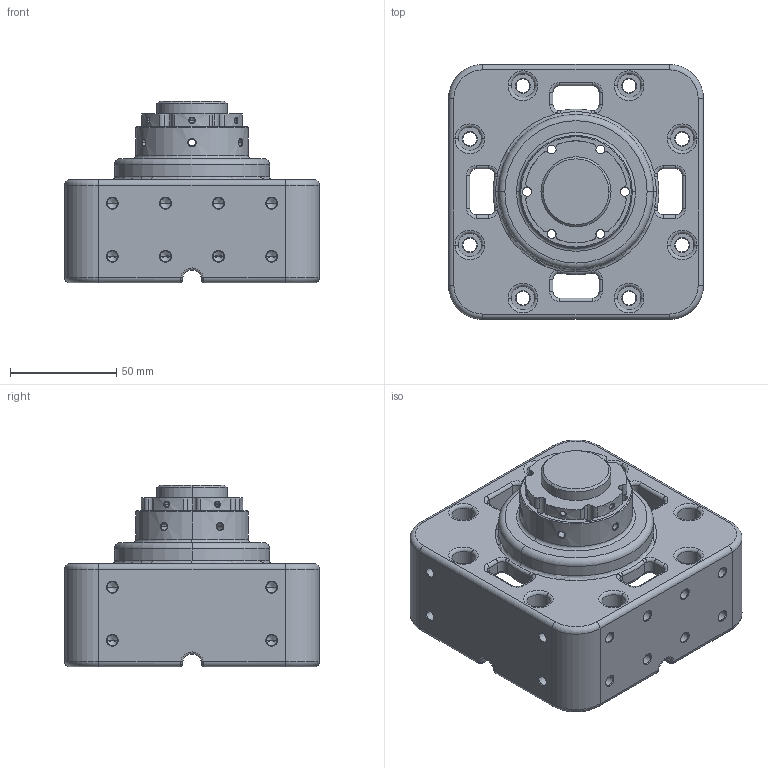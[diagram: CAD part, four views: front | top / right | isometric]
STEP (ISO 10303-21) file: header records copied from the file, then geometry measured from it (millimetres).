
FILE_DESCRIPTION((''),'2;1');
FILE_NAME('JXB-PR60-BASE','2019-12-03T',('Win10'),(''),'PRO/ENGINEER BY PARAMETRIC TECHNOLOGY CORPORATION, 2010280','PRO/ENGINEER BY PARAMETRIC TECHNOLOGY CORPORATION, 2010280','');
FILE_SCHEMA(('AUTOMOTIVE_DESIGN_CC2 { 1 2 10303 214 -1 1 5 2 }'));
Length unit declared in the file: millimetre
Products named in the file (1): JXB-PR60-BASE
Bounding box: 120 x 120 x 85.5 mm (x, y, z)
Volume: 347253 mm3; surface area: 91135.2 mm2
Topology: 1 solids, 1 shells, 724 faces, 1694 edges, 948 vertices
Faces by surface type: cylinder 284, cone 172, torus 146, plane 58, bspline 56, sphere 8
Entity records: 28245 total; most frequent: CARTESIAN_POINT 6846, DIRECTION 3766, ORIENTED_EDGE 3268, PRESENTATION_STYLE_ASSIGNMENT 1635, STYLED_ITEM 1635, CURVE_STYLE 1634, EDGE_CURVE 1634, AXIS2_PLACEMENT_3D 1588
